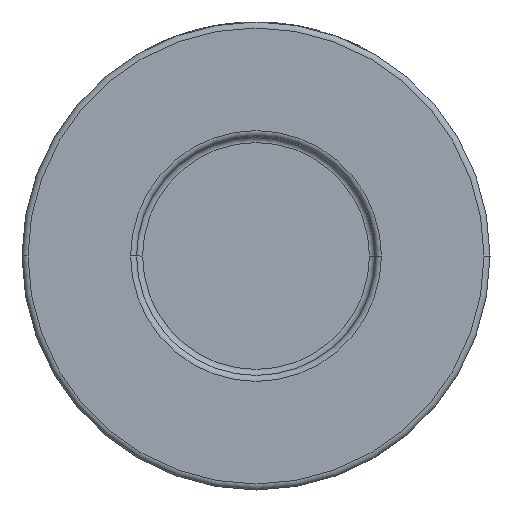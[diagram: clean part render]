
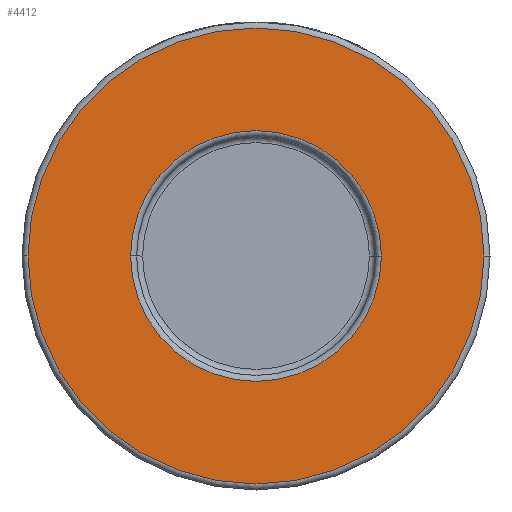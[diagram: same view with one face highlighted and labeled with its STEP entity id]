
A CAD part, front view. The second image highlights one B-rep face of the part: STEP entity #4412.
In plain terms, the highlighted planar face has unit normal (0, -1, 0).
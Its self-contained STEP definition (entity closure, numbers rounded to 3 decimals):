
#168 = AXIS2_PLACEMENT_3D ( 'NONE', #3259, #859, #3610 ) ;
#253 = ORIENTED_EDGE ( 'NONE', *, *, #1178, .T. ) ;
#488 = AXIS2_PLACEMENT_3D ( 'NONE', #797, #4303, #4347 ) ;
#550 = DIRECTION ( 'NONE',  ( 1., 0., 0. ) ) ;
#578 = DIRECTION ( 'NONE',  ( 1., 0., 0. ) ) ;
#613 = CARTESIAN_POINT ( 'NONE',  ( 20.9, -26., 0. ) ) ;
#639 = PLANE ( 'NONE',  #3371 ) ;
#709 = CARTESIAN_POINT ( 'NONE',  ( 39., -26., 0. ) ) ;
#797 = CARTESIAN_POINT ( 'NONE',  ( 0., -26., 0. ) ) ;
#859 = DIRECTION ( 'NONE',  ( 0., 1., 0. ) ) ;
#899 = CARTESIAN_POINT ( 'NONE',  ( -38., -26., 0. ) ) ;
#1178 = EDGE_CURVE ( 'NONE', #4134, #3357, #1900, .T. ) ;
#1355 = AXIS2_PLACEMENT_3D ( 'NONE', #4109, #3765, #578 ) ;
#1379 = CARTESIAN_POINT ( 'NONE',  ( -20.9, -26., 0. ) ) ;
#1399 = VERTEX_POINT ( 'NONE', #1379 ) ;
#1405 = EDGE_LOOP ( 'NONE', ( #253, #3169 ) ) ;
#1449 = EDGE_LOOP ( 'NONE', ( #2317, #2845 ) ) ;
#1726 = AXIS2_PLACEMENT_3D ( 'NONE', #2303, #3078, #550 ) ;
#1900 = CIRCLE ( 'NONE', #488, 38. ) ;
#2080 = DIRECTION ( 'NONE',  ( 0., -1., 0. ) ) ;
#2131 = FACE_BOUND ( 'NONE', #1449, .T. ) ;
#2303 = CARTESIAN_POINT ( 'NONE',  ( 0., -26., 0. ) ) ;
#2317 = ORIENTED_EDGE ( 'NONE', *, *, #3223, .T. ) ;
#2506 = FACE_OUTER_BOUND ( 'NONE', #1405, .T. ) ;
#2806 = DIRECTION ( 'NONE',  ( 1., 0., 0. ) ) ;
#2845 = ORIENTED_EDGE ( 'NONE', *, *, #3135, .T. ) ;
#3078 = DIRECTION ( 'NONE',  ( 0., -1., 0. ) ) ;
#3135 = EDGE_CURVE ( 'NONE', #1399, #3933, #3291, .T. ) ;
#3169 = ORIENTED_EDGE ( 'NONE', *, *, #3334, .T. ) ;
#3223 = EDGE_CURVE ( 'NONE', #3933, #1399, #3361, .T. ) ;
#3259 = CARTESIAN_POINT ( 'NONE',  ( 0., -26., 0. ) ) ;
#3291 = CIRCLE ( 'NONE', #168, 20.9 ) ;
#3334 = EDGE_CURVE ( 'NONE', #3357, #4134, #4540, .T. ) ;
#3357 = VERTEX_POINT ( 'NONE', #899 ) ;
#3361 = CIRCLE ( 'NONE', #1355, 20.9 ) ;
#3371 = AXIS2_PLACEMENT_3D ( 'NONE', #709, #2080, #2806 ) ;
#3610 = DIRECTION ( 'NONE',  ( 1., 0., 0. ) ) ;
#3618 = CARTESIAN_POINT ( 'NONE',  ( 38., -26., 0. ) ) ;
#3765 = DIRECTION ( 'NONE',  ( 0., 1., 0. ) ) ;
#3933 = VERTEX_POINT ( 'NONE', #613 ) ;
#4109 = CARTESIAN_POINT ( 'NONE',  ( 0., -26., 0. ) ) ;
#4134 = VERTEX_POINT ( 'NONE', #3618 ) ;
#4303 = DIRECTION ( 'NONE',  ( 0., -1., 0. ) ) ;
#4347 = DIRECTION ( 'NONE',  ( 1., 0., 0. ) ) ;
#4412 = ADVANCED_FACE ( 'NONE', ( #2131, #2506 ), #639, .T. ) ;
#4540 = CIRCLE ( 'NONE', #1726, 38. ) ;
